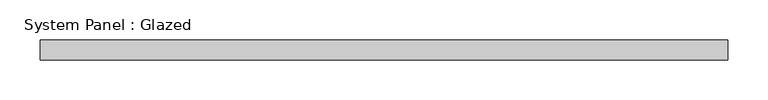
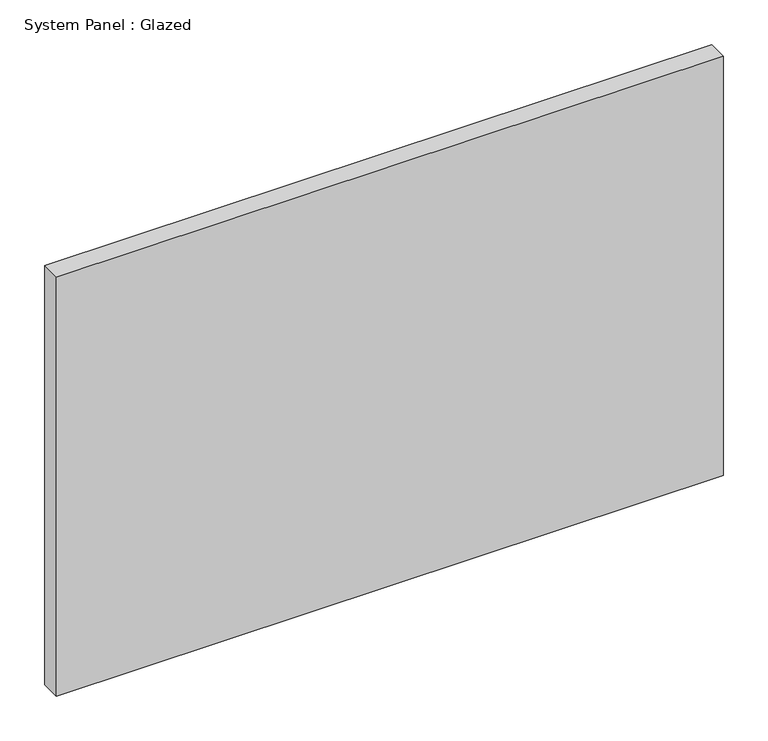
"""IFC4 building model written with IfcOpenShell, lengths in millimetres: plate geometry, System Panel : Glazed."""

from ifc_helpers import new_model, si_unit, origin, origin_with_axes, place, context, project, spatial, polyline, outline, extrude, source, transform, mapped, element, save


def system_panel_glazed_dc5c6d86(model_context):
    return source(origin(), model_context, "Body", "SweptSolid", [
        extrude(outline(polyline([(429.614913, 19.05), (-429.614913, 19.05), (-429.614913, 44.45), (429.614913, 44.45), (429.614913, 19.05)])), origin_with_axes(), (0.0, 0.0, 1.0), 571.5),
    ])


if __name__ == "__main__":
    model = new_model("IFC4")
    model_context = context("Model", 3, world=origin())
    ifc_project = project(units=[si_unit("LENGTHUNIT", "METRE", prefix="MILLI")], contexts=[model_context])
    site = spatial("IfcSite", under=ifc_project)
    building = spatial("IfcBuilding", under=site)
    placement = place(None, origin())
    system_panel_glazed_shape = system_panel_glazed_dc5c6d86(model_context)
    element("IfcPlate", 1, ObjectType="System Panel : Glazed", at=placement, inside=building, context=model_context, shape_type="MappedRepresentation", body=[
        mapped(system_panel_glazed_shape, transform((0.0, 0.0, 0.0), x_axis=(1.0, 0.0, 0.0), y_axis=(0.0, 1.0, 0.0), z_axis=(0.0, 0.0, 1.0))),
    ])
    save(model, "model.ifc")
